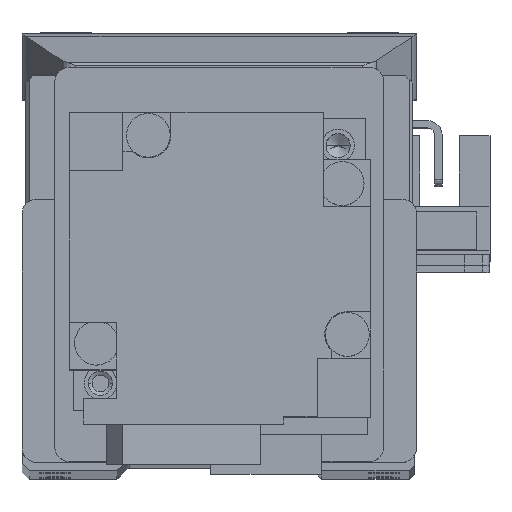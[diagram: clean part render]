
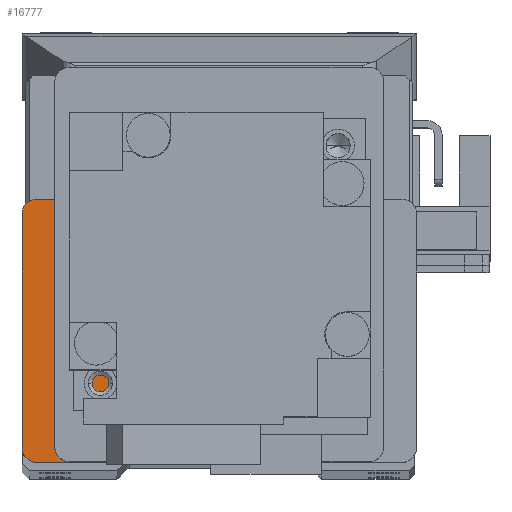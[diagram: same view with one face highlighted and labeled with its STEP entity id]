
A CAD part, top view. The second image highlights one B-rep face of the part: STEP entity #16777.
In plain terms, the highlighted planar face has unit normal (0, 0, 1) as drawn and (0, 0, -1) by its records, which use the part's own axes.
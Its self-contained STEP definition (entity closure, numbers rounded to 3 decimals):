
#84 = VECTOR ( 'NONE', #28355, 1000. ) ;
#132 = LINE ( 'NONE', #36367, #32870 ) ;
#550 = AXIS2_PLACEMENT_3D ( 'NONE', #35845, #15836, #12887 ) ;
#1250 = VECTOR ( 'NONE', #6727, 1000. ) ;
#2654 = AXIS2_PLACEMENT_3D ( 'NONE', #32145, #20482, #5840 ) ;
#4296 = EDGE_CURVE ( 'NONE', #30850, #22581, #37183, .T. ) ;
#4453 = DIRECTION ( 'NONE',  ( 0., 0., 1. ) ) ;
#4693 = AXIS2_PLACEMENT_3D ( 'NONE', #31964, #13117, #31969 ) ;
#4981 = EDGE_CURVE ( 'NONE', #36823, #7247, #8969, .T. ) ;
#5349 = LINE ( 'NONE', #29574, #1250 ) ;
#5768 = DIRECTION ( 'NONE',  ( 0., 1., 0. ) ) ;
#5840 = DIRECTION ( 'NONE',  ( 1., 0., 0. ) ) ;
#6521 = LINE ( 'NONE', #37313, #13836 ) ;
#6727 = DIRECTION ( 'NONE',  ( 1., 0., 0. ) ) ;
#7091 = ORIENTED_EDGE ( 'NONE', *, *, #23051, .F. ) ;
#7247 = VERTEX_POINT ( 'NONE', #18707 ) ;
#8348 = VERTEX_POINT ( 'NONE', #31823 ) ;
#8480 = DIRECTION ( 'NONE',  ( 0., -1., 0. ) ) ;
#8631 = CARTESIAN_POINT ( 'NONE',  ( 25., -27., 16.25 ) ) ;
#8742 = EDGE_LOOP ( 'NONE', ( #7091, #32746, #34523, #34198, #11426, #15370, #32193, #21057, #10477 ) ) ;
#8969 = LINE ( 'NONE', #20157, #28069 ) ;
#9759 = CARTESIAN_POINT ( 'NONE',  ( 22.5, -12., 16.25 ) ) ;
#10209 = CARTESIAN_POINT ( 'NONE',  ( 25., -25., 16.25 ) ) ;
#10477 = ORIENTED_EDGE ( 'NONE', *, *, #4296, .F. ) ;
#11346 = EDGE_CURVE ( 'NONE', #29481, #8348, #34192, .T. ) ;
#11426 = ORIENTED_EDGE ( 'NONE', *, *, #26461, .T. ) ;
#11609 = CARTESIAN_POINT ( 'NONE',  ( 11., -27., 16.25 ) ) ;
#12102 = VECTOR ( 'NONE', #8480, 1000. ) ;
#12887 = DIRECTION ( 'NONE',  ( 1., 0., 0. ) ) ;
#13117 = DIRECTION ( 'NONE',  ( 0., 0., -1. ) ) ;
#13575 = CIRCLE ( 'NONE', #4693, 2. ) ;
#13836 = VECTOR ( 'NONE', #28941, 1000. ) ;
#14105 = CARTESIAN_POINT ( 'NONE',  ( 27., 27., 16.25 ) ) ;
#14744 = EDGE_CURVE ( 'NONE', #36262, #22594, #13575, .T. ) ;
#14850 = LINE ( 'NONE', #14105, #12102 ) ;
#15370 = ORIENTED_EDGE ( 'NONE', *, *, #11346, .F. ) ;
#15836 = DIRECTION ( 'NONE',  ( 0., 0., 1. ) ) ;
#16511 = VERTEX_POINT ( 'NONE', #11609 ) ;
#16599 = DIRECTION ( 'NONE',  ( 0., -1., 0. ) ) ;
#16717 = CARTESIAN_POINT ( 'NONE',  ( 25., 9., 16.25 ) ) ;
#16777 = ADVANCED_FACE ( 'NONE', ( #19315 ), #24676, .F. ) ;
#17347 = CARTESIAN_POINT ( 'NONE',  ( 11., -17., 16.25 ) ) ;
#18315 = LINE ( 'NONE', #16717, #84 ) ;
#18707 = CARTESIAN_POINT ( 'NONE',  ( 22.5, 9., 16.25 ) ) ;
#19315 = FACE_OUTER_BOUND ( 'NONE', #8742, .T. ) ;
#20157 = CARTESIAN_POINT ( 'NONE',  ( 22.5, 27., 16.25 ) ) ;
#20482 = DIRECTION ( 'NONE',  ( 0., 0., 1. ) ) ;
#20639 = AXIS2_PLACEMENT_3D ( 'NONE', #10209, #4453, #33176 ) ;
#21057 = ORIENTED_EDGE ( 'NONE', *, *, #36168, .F. ) ;
#21922 = CARTESIAN_POINT ( 'NONE',  ( 16., -12., 16.25 ) ) ;
#22581 = VERTEX_POINT ( 'NONE', #17347 ) ;
#22594 = VERTEX_POINT ( 'NONE', #37588 ) ;
#22703 = CARTESIAN_POINT ( 'NONE',  ( 25., 9., 16.25 ) ) ;
#23051 = EDGE_CURVE ( 'NONE', #36823, #30850, #6521, .T. ) ;
#24676 = PLANE ( 'NONE',  #20639 ) ;
#25344 = EDGE_CURVE ( 'NONE', #16511, #29481, #5349, .T. ) ;
#26461 = EDGE_CURVE ( 'NONE', #22594, #8348, #14850, .T. ) ;
#28069 = VECTOR ( 'NONE', #5768, 1000. ) ;
#28355 = DIRECTION ( 'NONE',  ( -1., 0., 0. ) ) ;
#28503 = EDGE_CURVE ( 'NONE', #36262, #7247, #18315, .T. ) ;
#28941 = DIRECTION ( 'NONE',  ( -1., 0., 0. ) ) ;
#29481 = VERTEX_POINT ( 'NONE', #8631 ) ;
#29574 = CARTESIAN_POINT ( 'NONE',  ( -25., -27., 16.25 ) ) ;
#30850 = VERTEX_POINT ( 'NONE', #21922 ) ;
#31823 = CARTESIAN_POINT ( 'NONE',  ( 27., -25., 16.25 ) ) ;
#31964 = CARTESIAN_POINT ( 'NONE',  ( 25., 7., 16.25 ) ) ;
#31969 = DIRECTION ( 'NONE',  ( 1., 0., 0. ) ) ;
#32145 = CARTESIAN_POINT ( 'NONE',  ( 25., -25., 16.25 ) ) ;
#32193 = ORIENTED_EDGE ( 'NONE', *, *, #25344, .F. ) ;
#32746 = ORIENTED_EDGE ( 'NONE', *, *, #4981, .T. ) ;
#32870 = VECTOR ( 'NONE', #16599, 1000. ) ;
#33176 = DIRECTION ( 'NONE',  ( 1., 0., 0. ) ) ;
#34192 = CIRCLE ( 'NONE', #2654, 2. ) ;
#34198 = ORIENTED_EDGE ( 'NONE', *, *, #14744, .T. ) ;
#34523 = ORIENTED_EDGE ( 'NONE', *, *, #28503, .F. ) ;
#35845 = CARTESIAN_POINT ( 'NONE',  ( 16., -17., 16.25 ) ) ;
#36168 = EDGE_CURVE ( 'NONE', #22581, #16511, #132, .T. ) ;
#36262 = VERTEX_POINT ( 'NONE', #22703 ) ;
#36367 = CARTESIAN_POINT ( 'NONE',  ( 11., -27., 16.25 ) ) ;
#36823 = VERTEX_POINT ( 'NONE', #9759 ) ;
#37183 = CIRCLE ( 'NONE', #550, 5. ) ;
#37313 = CARTESIAN_POINT ( 'NONE',  ( 22.5, -12., 16.25 ) ) ;
#37588 = CARTESIAN_POINT ( 'NONE',  ( 27., 7., 16.25 ) ) ;
